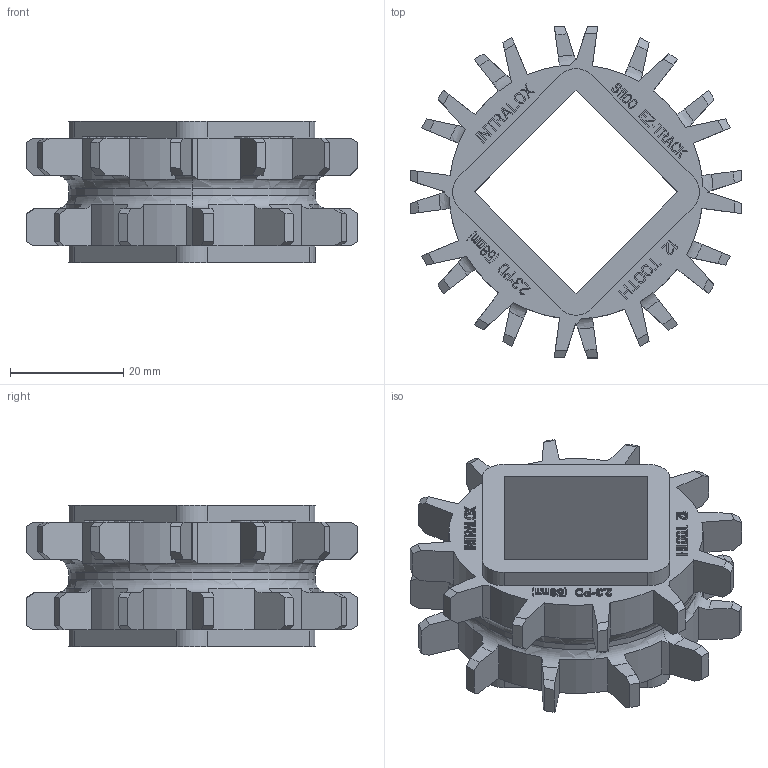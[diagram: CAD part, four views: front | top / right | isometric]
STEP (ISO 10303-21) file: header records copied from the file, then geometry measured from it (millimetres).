
FILE_DESCRIPTION((''),'2;1');
FILE_NAME('S1100_EZ_TRACK_CLEAN_23X1_25_SQ','2008-12-12T',('jmumphre'),(''),'PRO/ENGINEER BY PARAMETRIC TECHNOLOGY CORPORATION, 2008150','PRO/ENGINEER BY PARAMETRIC TECHNOLOGY CORPORATION, 2008150','');
FILE_SCHEMA(('CONFIG_CONTROL_DESIGN'));
Length unit declared in the file: inch
Products named in the file (1): S1100_EZ_TRACK_CLEAN_23X1_25_SQ
Bounding box: 58.56 x 58.56 x 24.89 mm (x, y, z)
Volume: 22664.9 mm3; surface area: 10653.1 mm2
Topology: 1 solids, 1 shells, 1174 faces, 3340 edges, 2224 vertices
Faces by surface type: plane 1112, cylinder 34, cone 24, torus 4
Entity records: 37828 total; most frequent: CARTESIAN_POINT 7286, ORIENTED_EDGE 6680, DIRECTION 5696, EDGE_CURVE 3340, VECTOR 3108, LINE 3108, VERTEX_POINT 2224, AXIS2_PLACEMENT_3D 1294
